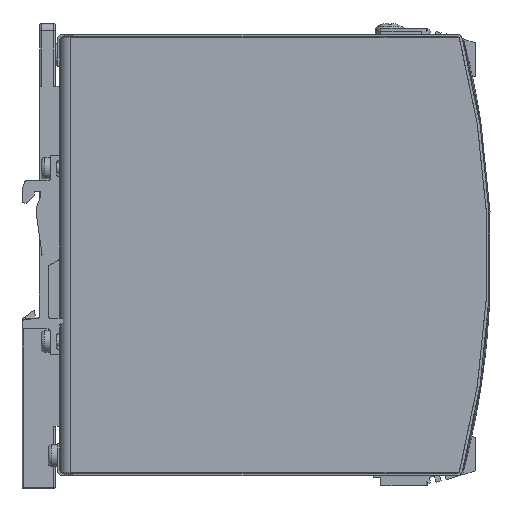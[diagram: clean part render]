
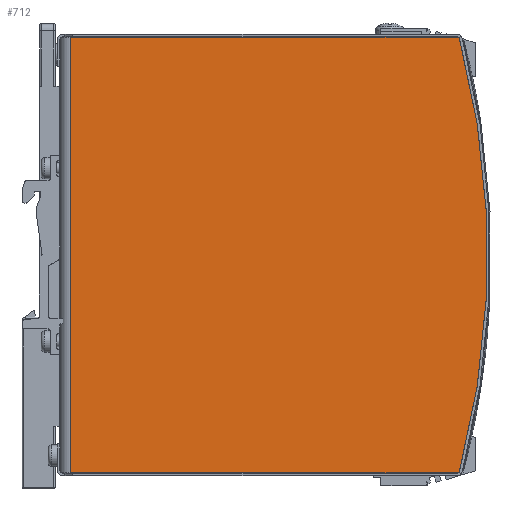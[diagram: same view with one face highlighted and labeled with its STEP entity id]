
A CAD part, front view. The second image highlights one B-rep face of the part: STEP entity #712.
In plain terms, the highlighted planar face has unit normal (0, -1, 0).
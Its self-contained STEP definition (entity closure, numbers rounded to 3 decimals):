
#348=CARTESIAN_POINT('',(112.079,-23.,-61.15));
#349=VERTEX_POINT('',#348);
#350=CARTESIAN_POINT('',(112.079,-23.,61.15));
#351=VERTEX_POINT('',#350);
#352=CARTESIAN_POINT('',(-120.,-23.,0.));
#353=DIRECTION('',(0.0,-1.,0.0));
#354=DIRECTION('',(-0.967,0.0,-0.255));
#355=AXIS2_PLACEMENT_3D('',#352,#353,#354);
#356=CIRCLE('',#355,240.0);
#357=EDGE_CURVE('',#349,#351,#356,.T.);
#529=CARTESIAN_POINT('',(3.,-23.0,-61.15));
#530=VERTEX_POINT('',#529);
#531=CARTESIAN_POINT('',(112.079,-23.,-61.15));
#532=DIRECTION('',(-1.0,0.0,0.0));
#533=VECTOR('',#532,109.079);
#534=LINE('',#531,#533);
#535=EDGE_CURVE('',#349,#530,#534,.T.);
#669=CARTESIAN_POINT('',(3.,-23.0,61.15));
#670=VERTEX_POINT('',#669);
#671=CARTESIAN_POINT('',(3.,-23.0,61.15));
#672=DIRECTION('',(0.0,0.0,-1.0));
#673=VECTOR('',#672,122.3);
#674=LINE('',#671,#673);
#675=EDGE_CURVE('',#670,#530,#674,.T.);
#696=CARTESIAN_POINT('',(130.0,-23.,-61.15));
#697=DIRECTION('',(0.0,-1.0,0.0));
#698=DIRECTION('',(0.0,0.0,-1.0));
#699=AXIS2_PLACEMENT_3D('',#696,#697,#698);
#700=PLANE('',#699);
#701=ORIENTED_EDGE('',*,*,#357,.T.);
#702=CARTESIAN_POINT('',(112.079,-23.,61.15));
#703=DIRECTION('',(-1.0,0.0,0.0));
#704=VECTOR('',#703,109.079);
#705=LINE('',#702,#704);
#706=EDGE_CURVE('',#351,#670,#705,.T.);
#707=ORIENTED_EDGE('',*,*,#706,.T.);
#708=ORIENTED_EDGE('',*,*,#675,.T.);
#709=ORIENTED_EDGE('',*,*,#535,.F.);
#710=EDGE_LOOP('',(#701,#707,#708,#709));
#711=FACE_OUTER_BOUND('',#710,.T.);
#712=ADVANCED_FACE('',(#711),#700,.T.);
